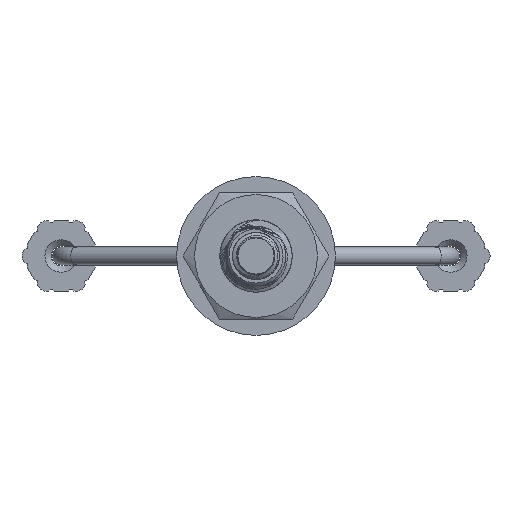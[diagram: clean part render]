
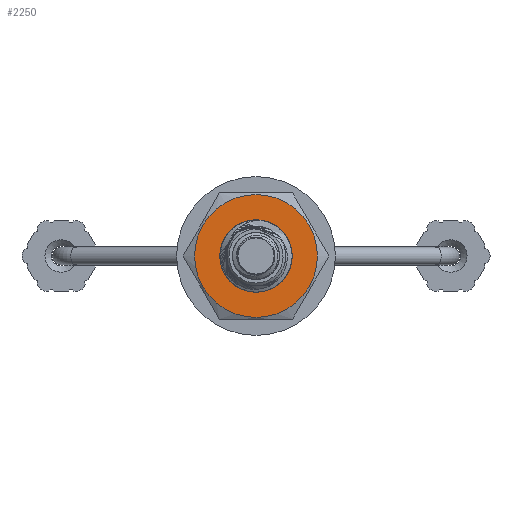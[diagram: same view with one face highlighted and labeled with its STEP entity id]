
A CAD part, front view. The second image highlights one B-rep face of the part: STEP entity #2250.
In plain terms, the highlighted planar face has unit normal (0, -1, 0).
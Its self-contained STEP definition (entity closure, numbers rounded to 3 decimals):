
#2081=FACE_BOUND('',#3677,.T.);
#2250=ADVANCED_FACE('',(#2081,#3135),#2799,.T.);
#2799=PLANE('',#10893);
#3135=FACE_OUTER_BOUND('',#3678,.T.);
#3677=EDGE_LOOP('',(#4860,#4861,#4862,#4863));
#3678=EDGE_LOOP('',(#4864));
#4360=B_SPLINE_CURVE_WITH_KNOTS('',3,(#21340,#21341,#21342,#21343,#21344,
#21345,#21346,#21347,#21348,#21349,#21350,#21351,#21352),.UNSPECIFIED.,.F.,
.F.,(4,3,3,3,4),(0.,0.239,0.495,0.757,
1.),.UNSPECIFIED.);
#4361=B_SPLINE_CURVE_WITH_KNOTS('',3,(#21356,#21357,#21358,#21359,#21360,
#21361,#21362,#21363,#21364,#21365,#21366,#21367,#21368,#21369,#21370,#21371),
.UNSPECIFIED.,.F.,.F.,(4,3,3,3,3,4),(0.,0.22,0.453,
0.701,0.945,1.),.UNSPECIFIED.);
#4860=ORIENTED_EDGE('',*,*,#9030,.F.);
#4861=ORIENTED_EDGE('',*,*,#9031,.T.);
#4862=ORIENTED_EDGE('',*,*,#9032,.F.);
#4863=ORIENTED_EDGE('',*,*,#9033,.T.);
#4864=ORIENTED_EDGE('',*,*,#9022,.T.);
#7937=VERTEX_POINT('',#21301);
#7944=VERTEX_POINT('',#21338);
#7945=VERTEX_POINT('',#21339);
#7946=VERTEX_POINT('',#21353);
#7947=VERTEX_POINT('',#21355);
#9022=EDGE_CURVE('',#7937,#7937,#10570,.T.);
#9030=EDGE_CURVE('',#7944,#7945,#10571,.T.);
#9031=EDGE_CURVE('',#7944,#7946,#4360,.T.);
#9032=EDGE_CURVE('',#7947,#7946,#10572,.T.);
#9033=EDGE_CURVE('',#7947,#7945,#4361,.T.);
#10570=CIRCLE('',#10889,3.405);
#10571=CIRCLE('',#10891,1.5);
#10572=CIRCLE('',#10892,1.315);
#10889=AXIS2_PLACEMENT_3D('',#21300,#11743,#11744);
#10891=AXIS2_PLACEMENT_3D('',#21337,#11747,#11748);
#10892=AXIS2_PLACEMENT_3D('',#21354,#11749,#11750);
#10893=AXIS2_PLACEMENT_3D('',#21372,#11751,#11752);
#11743=DIRECTION('',(0.,-1.,0.));
#11744=DIRECTION('',(0.,0.,-1.));
#11747=DIRECTION('',(0.,-1.,0.));
#11748=DIRECTION('',(-1.,0.,0.));
#11749=DIRECTION('',(0.,-1.,0.));
#11750=DIRECTION('',(-1.,0.,0.));
#11751=DIRECTION('',(0.,-1.,0.));
#11752=DIRECTION('',(-1.,0.,0.));
#21300=CARTESIAN_POINT('',(0.,29.05,0.));
#21301=CARTESIAN_POINT('',(-3.405,29.05,0.));
#21337=CARTESIAN_POINT('',(0.,29.05,0.));
#21338=CARTESIAN_POINT('',(0.183,29.05,-1.489));
#21339=CARTESIAN_POINT('',(1.474,29.05,0.28));
#21340=CARTESIAN_POINT('',(0.183,29.05,-1.489));
#21341=CARTESIAN_POINT('',(0.034,29.05,-1.494));
#21342=CARTESIAN_POINT('',(-0.118,29.05,-1.475));
#21343=CARTESIAN_POINT('',(-0.262,29.05,-1.434));
#21344=CARTESIAN_POINT('',(-0.416,29.05,-1.39));
#21345=CARTESIAN_POINT('',(-0.565,29.05,-1.319));
#21346=CARTESIAN_POINT('',(-0.696,29.05,-1.227));
#21347=CARTESIAN_POINT('',(-0.831,29.05,-1.133));
#21348=CARTESIAN_POINT('',(-0.951,29.05,-1.014));
#21349=CARTESIAN_POINT('',(-1.043,29.05,-0.878));
#21350=CARTESIAN_POINT('',(-1.128,29.05,-0.752));
#21351=CARTESIAN_POINT('',(-1.192,29.05,-0.61));
#21352=CARTESIAN_POINT('',(-1.231,29.05,-0.462));
#21353=CARTESIAN_POINT('',(-1.231,29.05,-0.462));
#21354=CARTESIAN_POINT('',(0.,29.05,0.));
#21355=CARTESIAN_POINT('',(0.044,29.05,1.314));
#21356=CARTESIAN_POINT('',(0.044,29.05,1.314));
#21357=CARTESIAN_POINT('',(0.183,29.05,1.324));
#21358=CARTESIAN_POINT('',(0.325,29.05,1.31));
#21359=CARTESIAN_POINT('',(0.46,29.05,1.276));
#21360=CARTESIAN_POINT('',(0.603,29.05,1.24));
#21361=CARTESIAN_POINT('',(0.742,29.05,1.18));
#21362=CARTESIAN_POINT('',(0.867,29.05,1.101));
#21363=CARTESIAN_POINT('',(0.999,29.05,1.018));
#21364=CARTESIAN_POINT('',(1.118,29.05,0.909));
#21365=CARTESIAN_POINT('',(1.215,29.05,0.786));
#21366=CARTESIAN_POINT('',(1.31,29.05,0.664));
#21367=CARTESIAN_POINT('',(1.387,29.05,0.525));
#21368=CARTESIAN_POINT('',(1.44,29.05,0.38));
#21369=CARTESIAN_POINT('',(1.453,29.05,0.347));
#21370=CARTESIAN_POINT('',(1.464,29.05,0.314));
#21371=CARTESIAN_POINT('',(1.474,29.05,0.28));
#21372=CARTESIAN_POINT('',(6.953,29.05,-9.84));
